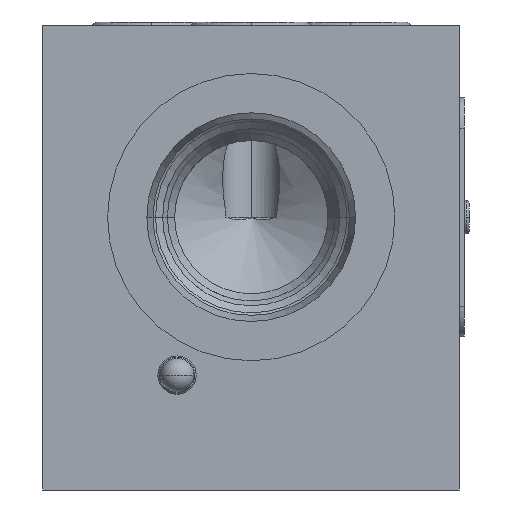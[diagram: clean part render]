
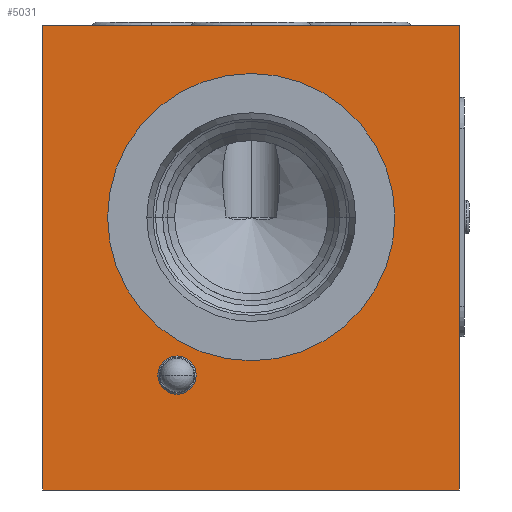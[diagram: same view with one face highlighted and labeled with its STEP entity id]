
A CAD part, left-side view. The second image highlights one B-rep face of the part: STEP entity #5031.
In plain terms, the highlighted planar face has unit normal (-1, 0, 0).
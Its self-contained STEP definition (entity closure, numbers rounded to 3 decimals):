
#59=DIRECTION('',(0.,-1.,0.));
#60=VECTOR('',#59,43.5);
#61=CARTESIAN_POINT('',(0.,43.5,0.));
#62=LINE('',#61,#60);
#272=DIRECTION('',(0.,0.,-1.));
#273=VECTOR('',#272,48.5);
#274=CARTESIAN_POINT('',(0.,0.,0.));
#275=LINE('',#274,#273);
#357=DIRECTION('',(0.,0.,-1.));
#358=VECTOR('',#357,48.5);
#359=CARTESIAN_POINT('',(0.,43.5,0.));
#360=LINE('',#359,#358);
#364=CARTESIAN_POINT('',(0.,21.75,-20.));
#365=DIRECTION('',(1.,0.,0.));
#366=DIRECTION('',(0.,-1.,0.));
#367=AXIS2_PLACEMENT_3D('',#364,#365,#366);
#372=CARTESIAN_POINT('',(0.,21.75,-20.));
#373=DIRECTION('',(1.,0.,0.));
#374=DIRECTION('',(0.,1.,0.));
#375=AXIS2_PLACEMENT_3D('',#372,#373,#374);
#380=CARTESIAN_POINT('',(0.,29.5,-36.5));
#381=DIRECTION('',(-1.,0.,0.));
#382=DIRECTION('',(0.,1.,0.));
#383=AXIS2_PLACEMENT_3D('',#380,#381,#382);
#388=CARTESIAN_POINT('',(0.,29.5,-36.5));
#389=DIRECTION('',(-1.,0.,0.));
#390=DIRECTION('',(0.,-1.,0.));
#391=AXIS2_PLACEMENT_3D('',#388,#389,#390);
#417=DIRECTION('',(0.,-1.,0.));
#418=VECTOR('',#417,43.5);
#419=CARTESIAN_POINT('',(0.,43.5,-48.5));
#420=LINE('',#419,#418);
#4403=CARTESIAN_POINT('',(0.,0.,0.));
#4405=VERTEX_POINT('',#4403);
#4409=CARTESIAN_POINT('',(0.,43.5,0.));
#4410=VERTEX_POINT('',#4409);
#4411=CARTESIAN_POINT('',(0.,0.,-48.5));
#4413=VERTEX_POINT('',#4411);
#4417=CARTESIAN_POINT('',(0.,43.5,-48.5));
#4418=VERTEX_POINT('',#4417);
#4487=CARTESIAN_POINT('',(0.,6.75,-20.));
#4488=VERTEX_POINT('',#4487);
#4489=CARTESIAN_POINT('',(0.,36.75,-20.));
#4490=VERTEX_POINT('',#4489);
#4644=CARTESIAN_POINT('',(0.,31.5,-36.5));
#4645=VERTEX_POINT('',#4644);
#4648=CARTESIAN_POINT('',(0.,27.5,-36.5));
#4649=VERTEX_POINT('',#4648);
#5007=CARTESIAN_POINT('',(0.,43.5,0.));
#5008=DIRECTION('',(-1.,0.,0.));
#5009=DIRECTION('',(0.,-1.,0.));
#5010=AXIS2_PLACEMENT_3D('',#5007,#5008,#5009);
#5011=PLANE('',#5010);
#5012=ORIENTED_EDGE('',*,*,#4811,.T.);
#5013=ORIENTED_EDGE('',*,*,#4914,.T.);
#5015=ORIENTED_EDGE('',*,*,#5014,.F.);
#5016=ORIENTED_EDGE('',*,*,#4987,.F.);
#5017=EDGE_LOOP('',(#5012,#5013,#5015,#5016));
#5018=FACE_OUTER_BOUND('',#5017,.F.);
#5020=ORIENTED_EDGE('',*,*,#5019,.F.);
#5022=ORIENTED_EDGE('',*,*,#5021,.F.);
#5023=EDGE_LOOP('',(#5020,#5022));
#5024=FACE_BOUND('',#5023,.F.);
#5026=ORIENTED_EDGE('',*,*,#5025,.T.);
#5028=ORIENTED_EDGE('',*,*,#5027,.T.);
#5029=EDGE_LOOP('',(#5026,#5028));
#5030=FACE_BOUND('',#5029,.F.);
#368=CIRCLE('',#367,15.);
#376=CIRCLE('',#375,15.);
#384=CIRCLE('',#383,2.);
#392=CIRCLE('',#391,2.);
#4811=EDGE_CURVE('',#4410,#4405,#62,.T.);
#4914=EDGE_CURVE('',#4405,#4413,#275,.T.);
#4987=EDGE_CURVE('',#4410,#4418,#360,.T.);
#5014=EDGE_CURVE('',#4418,#4413,#420,.T.);
#5019=EDGE_CURVE('',#4488,#4490,#368,.T.);
#5021=EDGE_CURVE('',#4490,#4488,#376,.T.);
#5025=EDGE_CURVE('',#4645,#4649,#384,.T.);
#5027=EDGE_CURVE('',#4649,#4645,#392,.T.);
#5031=ADVANCED_FACE('',(#5018,#5024,#5030),#5011,.T.);
